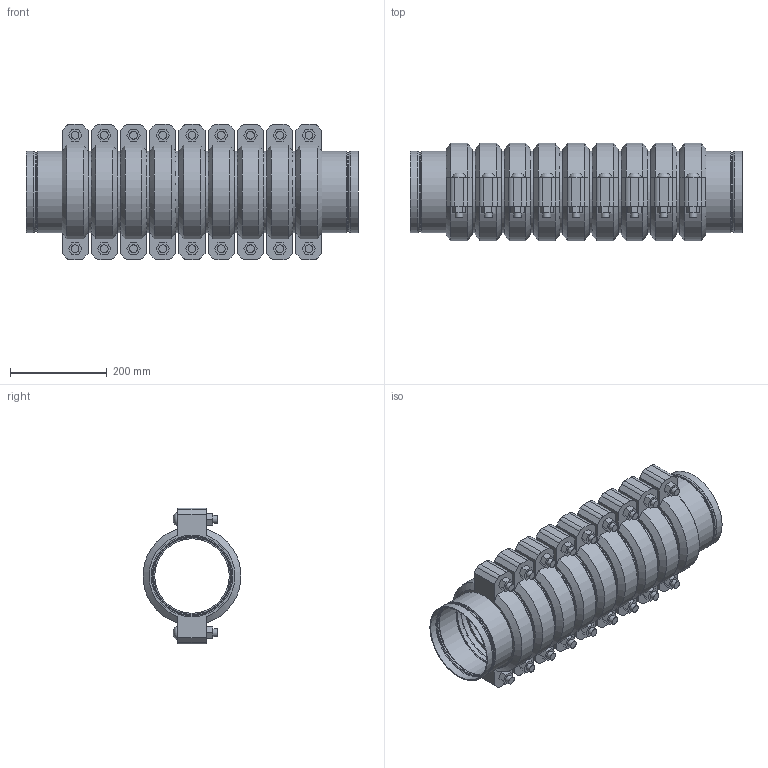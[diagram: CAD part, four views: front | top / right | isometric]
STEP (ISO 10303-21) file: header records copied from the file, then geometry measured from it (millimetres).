
FILE_DESCRIPTION(/* description */ ('VIC STRENGTHIN 100 EXPANSION JOINT 9 COUPLINGS COMPRESSED STYLE E155 (ST1)','CAx-IF Rec.Pracs.---Representation and Presentation of Product Manufacturing Information (PMI)---4.0---2014-10-13'),/* implementation_level */ '2;1');
FILE_NAME(/* name */ 'C:\Users\Vjadhav\AppData\Roaming\Autodesk\ApplicationPlugins\Victaulic.Temp\A705\Victaulic_SS-StrengThin 100_Expansion Joint_Compressed_9 Couplings_Style E155 (ST1)_6 (150).stp',/* time_stamp */ '2021-07-23T12:37:36+05:00',/* author */ ('kkamble'),/* organization */ ('Victaulic'),/* preprocessor_version */ 'ST-DEVELOPER v17.2',/* originating_system */ 'Autodesk Inventor 2019',/* authorisation */ '');
FILE_SCHEMA (('AP242_MANAGED_MODEL_BASED_3D_ENGINEERING_MIM_LF { 1 0 10303 442 1 1 4 }'));
Length unit declared in the file: inch
Products named in the file (4): E155-06.0; E494G-06.0; Nipple-06.0; 075-06.0
Assembly tree (19 placements, depth 2):
  E155-06.0
    E494G-06.0  x2
    Nipple-06.0  x8
    075-06.0  x9
Bounding box: 687.58 x 202.46 x 281.18 mm (x, y, z)
Volume: 8556705.4 mm3; surface area: 1797242.4 mm2
Topology: 19 solids, 37 shells, 641 faces, 1605 edges, 1132 vertices
Faces by surface type: plane 366, cylinder 185, cone 40, torus 32, bspline 18
Full cylindrical faces by diameter (mm): 15.875 x36, 17.424 x18, 154.051 x8, 159.258 x2, 159.944 x2, 163.271 x2, 163.957 x18, 164.262 x6, 168.275 x39
Entity records: 3711 total; most frequent: DIRECTION 663, CARTESIAN_POINT 651, ORIENTED_EDGE 536, AXIS2_PLACEMENT_3D 283, EDGE_CURVE 268, VERTEX_POINT 193, CIRCLE 163, EDGE_LOOP 123
